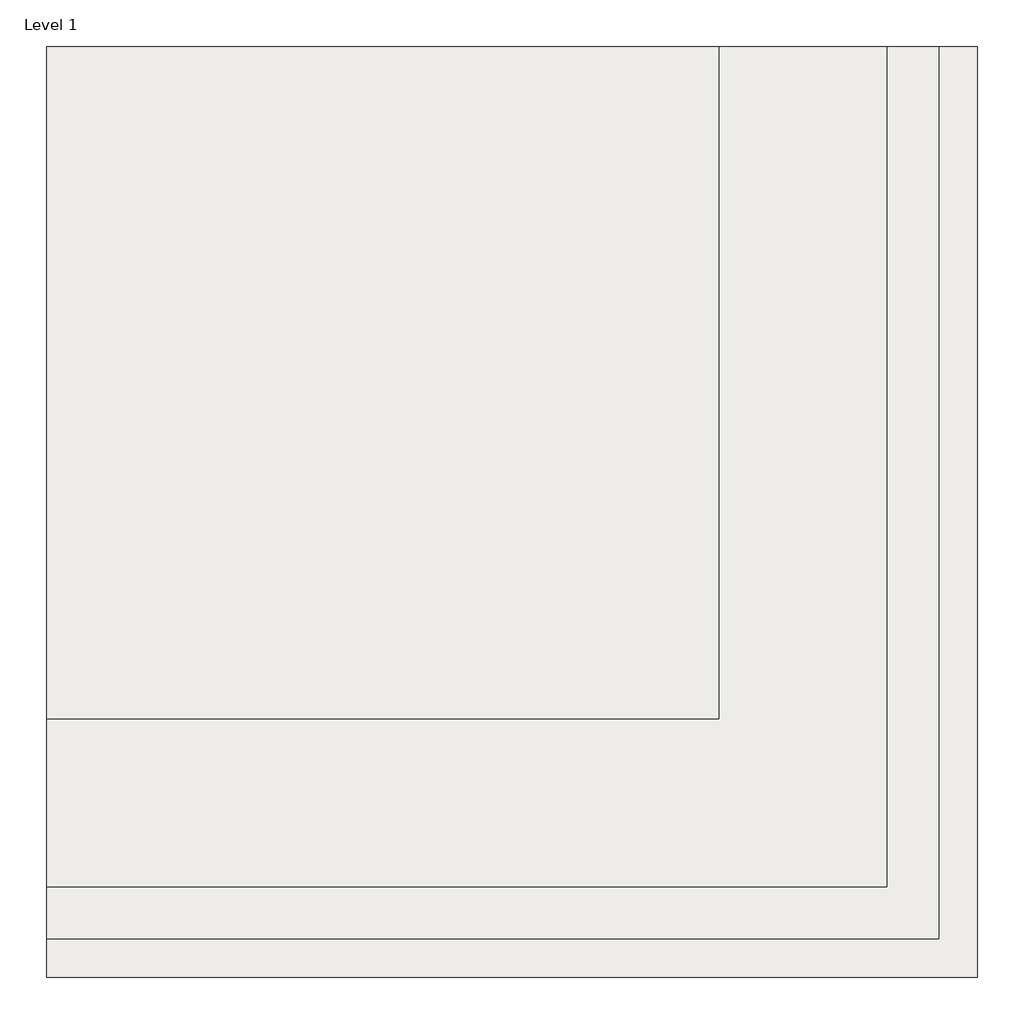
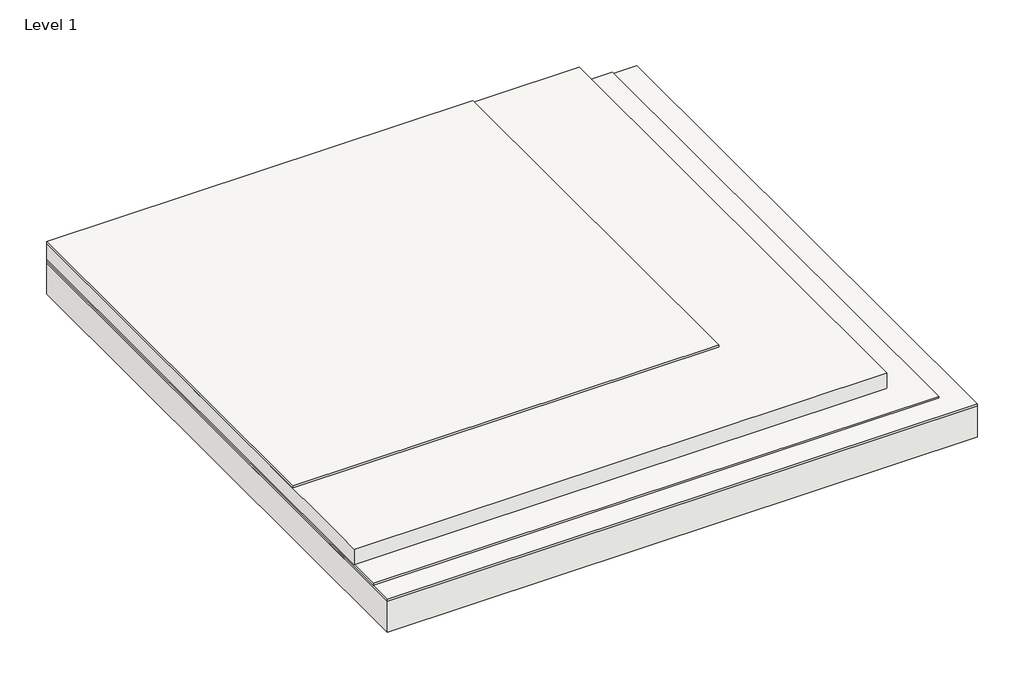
# One storey: 1 slab.
"""IFC4 building model written with IfcOpenShell, lengths in millimetres."""

from ifc_helpers import new_model, si_unit, frame, origin, place, context, project, spatial, polyline, outline, extrude, element, save

model = new_model("IFC4")

# Units and contexts
model_context = context("Model", 3, world=origin())
ifc_project = project(units=[si_unit("LENGTHUNIT", "METRE", prefix="MILLI")], contexts=[model_context])

# Site, building, storey
site = spatial("IfcSite", under=ifc_project)
building = spatial("IfcBuilding", under=site)
storey = spatial("IfcBuildingStorey", under=building, Name="Level 1", Elevation=0.0)

# Slab
placement = place(None, origin())
element("IfcSlab", 1, ObjectType="Insulated Underlay for FOIL Heater - Warmup", at=placement, inside=storey, context=model_context, shape_type="SweptSolid", body=[
    extrude(outline(polyline([(-12825.3502758, -15931.6430746), (-12825.3502758, -17252.4430746), (-14146.1502758, -17252.4430746), (-14146.1502758, -15931.6430746), (-12825.3502758, -15931.6430746)])), frame((0.0, 0.0, -6.35), z_axis=(0.0, 0.0, 1.0), x_axis=(1.0, 0.0, 0.0)), (0.0, 0.0, 1.0), 6.35),
    extrude(outline(polyline([(-12495.1502758, -15931.6430746), (-12495.1502758, -17582.6430746), (-14146.1502758, -17582.6430746), (-14146.1502758, -15931.6430746), (-12495.1502758, -15931.6430746)])), frame((0.0, 0.0, -57.15), z_axis=(0.0, 0.0, 1.0), x_axis=(1.0, 0.0, 0.0)), (0.0, 0.0, 1.0), 50.8),
    extrude(outline(polyline([(-12393.5502758, -15931.6430746), (-12393.5502758, -17684.2430746), (-14146.1502758, -17684.2430746), (-14146.1502758, -15931.6430746), (-12393.5502758, -15931.6430746)])), frame((0.0, 0.0, -63.5), z_axis=(0.0, 0.0, 1.0), x_axis=(1.0, 0.0, 0.0)), (0.0, 0.0, 1.0), 6.35),
    extrude(outline(polyline([(-12317.3502758, -15931.6430746), (-12317.3502758, -17760.4430746), (-14146.1502758, -17760.4430746), (-14146.1502758, -15931.6430746), (-12317.3502758, -15931.6430746)])), frame((0.0, 0.0, -69.85), z_axis=(0.0, 0.0, 1.0), x_axis=(1.0, 0.0, 0.0)), (0.0, 0.0, 1.0), 6.35),
    extrude(outline(polyline([(-12317.3502758, -15931.6430746), (-12317.3502758, -17760.4430746), (-14146.1502758, -17760.4430746), (-14146.1502758, -15931.6430746), (-12317.3502758, -15931.6430746)])), frame((0.0, 0.0, -171.45), z_axis=(0.0, 0.0, 1.0), x_axis=(1.0, 0.0, 0.0)), (0.0, 0.0, 1.0), 101.6),
])

save(model, "model.ifc")
